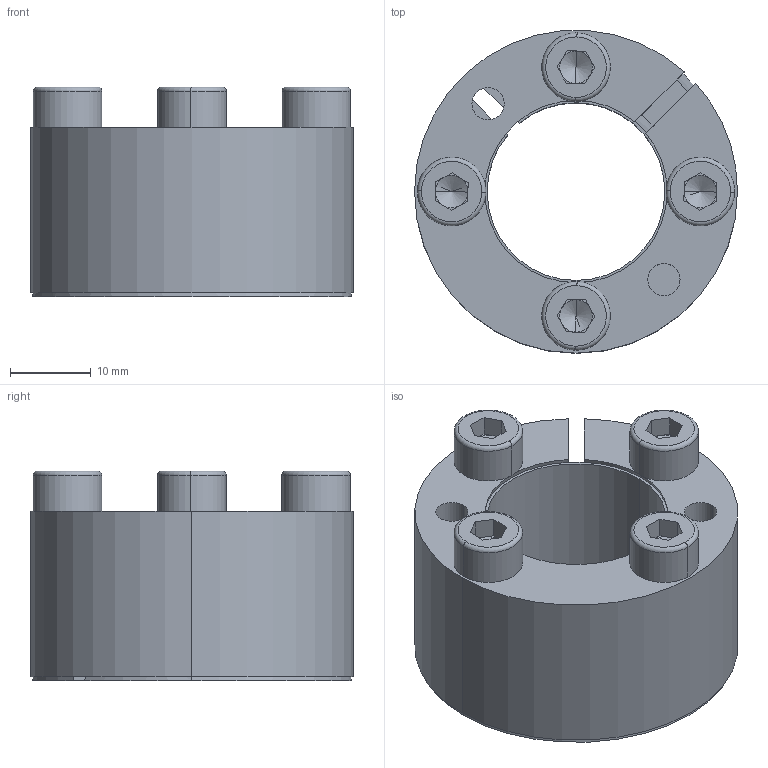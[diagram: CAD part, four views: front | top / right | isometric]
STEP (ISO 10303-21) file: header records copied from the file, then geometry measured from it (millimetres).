
FILE_DESCRIPTION (( 'STEP AP214' ), '1' );
FILE_NAME ('CONEX-K-22x40.step', '2013-04-06T13:20:50', ( 'Pc' ), ( '' ), 'SwSTEP 2.0', 'SolidWorks 2013', '' );
FILE_SCHEMA (( 'AUTOMOTIVE_DESIGN' ));
Length unit declared in the file: millimetre
Products named in the file (1): CONEX-K-22x40
Bounding box: 40 x 39.94 x 25.99 mm (x, y, z)
Volume: 14839.7 mm3; surface area: 13986.6 mm2
Topology: 6 solids, 6 shells, 162 faces, 378 edges, 228 vertices
Faces by surface type: plane 70, cylinder 48, cone 28, torus 16
Entity records: 6473 total; most frequent: DIRECTION 866, CARTESIAN_POINT 785, ORIENTED_EDGE 740, EDGE_CURVE 370, AXIS2_PLACEMENT_3D 341, VERTEX_POINT 228, EDGE_LOOP 190, LINE 184
